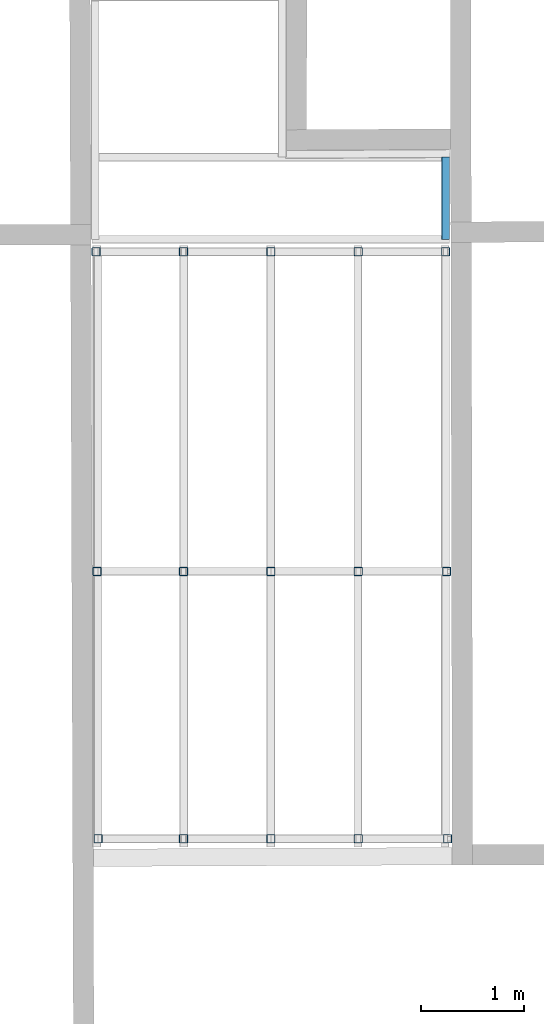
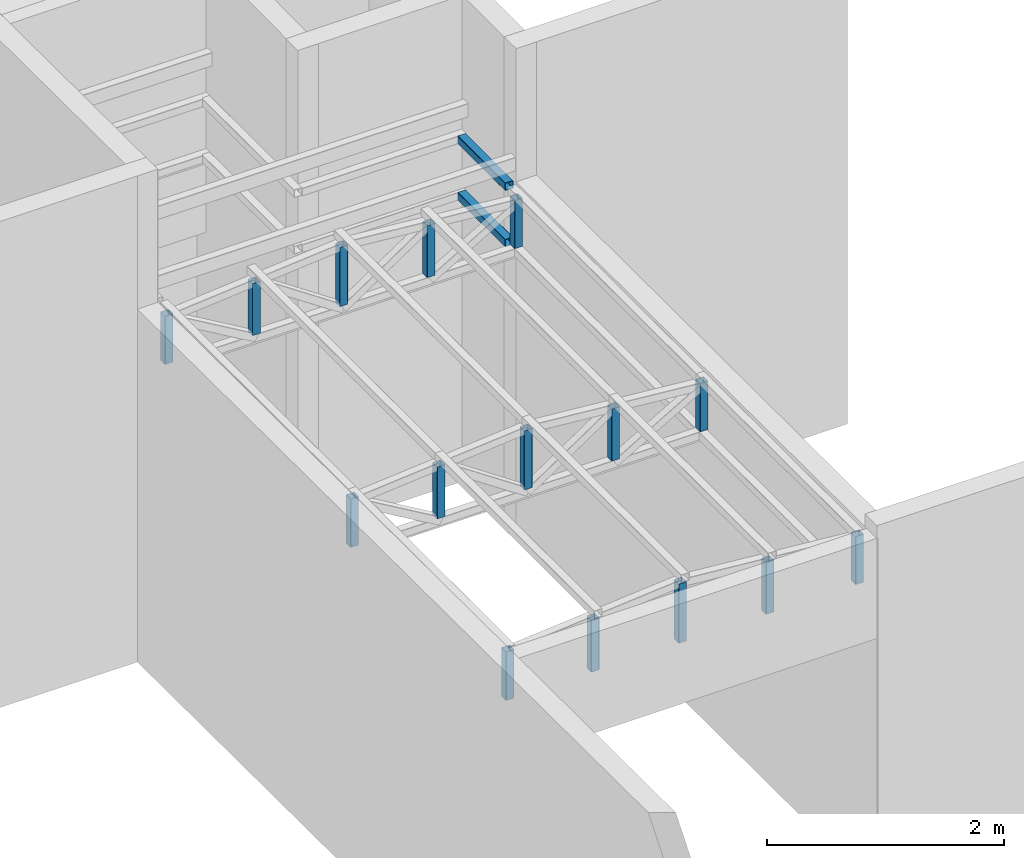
# One storey, part 6 of 9: 17 beams, 17 elements without a shape of their own.
"""IFC2X3 building model written with IfcOpenShell, lengths in millimetres."""

import ifcopenshell
import ifcopenshell.guid

model = None  # the IFC model being written
_history = None  # IfcOwnerHistory: only IFC2X3 demands one
_inside = {}  # id of a spatial element -> (the spatial element, [elements in it])
_under = {}  # id of a project, library or spatial element -> (it, [spatial elements below it])
_declared = {}  # id of a project -> (the project, [libraries it declares])
_typed = {}  # id of a type object -> (the type object, [elements of that type])
_made_of = {}  # id of a material, layer set ... -> (it, [elements and type objects made of it])


def new_model(schema):
    """Start an empty IFC model of exactly this schema.

    Asked for "IFC4X3", IfcOpenShell would pick the latest addendum, in which some entities
    have other attributes; the version numbers below select the first issue.
    IFC2X3 requires an IfcOwnerHistory on every rooted entity: one is made here for all.
    """
    global model, _history
    if schema == "IFC4X3":
        model = ifcopenshell.file(schema_version=(4, 3, 0, 0))
    else:
        model = ifcopenshell.file(schema=schema)
    _inside.clear()
    _under.clear()
    _declared.clear()
    _typed.clear()
    _made_of.clear()
    _history = None
    if model.schema == "IFC2X3":
        org = make("IfcOrganization", Name="unknown")
        user = make(
            "IfcPersonAndOrganization",
            ThePerson=make("IfcPerson", FamilyName="unknown"),
            TheOrganization=org,
        )
        app = make(
            "IfcApplication",
            ApplicationDeveloper=org,
            Version="unknown",
            ApplicationFullName="unknown",
            ApplicationIdentifier="unknown",
        )
        _history = make(
            "IfcOwnerHistory",
            OwningUser=user,
            OwningApplication=app,
            ChangeAction="ADDED",
            CreationDate=0,
        )
    return model


def make(cls, **values):
    """One entity of the class cls with the attributes given. An attribute that is None is left unset."""
    return model.create_entity(
        cls, **{name: value for name, value in values.items() if value is not None}
    )


def rooted(cls, **values):
    """An entity with a GlobalId (a new one), such as an element, a storey or a relation."""
    return make(cls, GlobalId=ifcopenshell.guid.new(), OwnerHistory=_history, **values)


def si_unit(unit_type, name, prefix=None):
    """IfcSIUnit, for example si_unit("LENGTHUNIT", "METRE", prefix="MILLI")."""
    return make("IfcSIUnit", UnitType=unit_type, Prefix=prefix, Name=name)


def assignment(units):
    """IfcUnitAssignment: the units of a project."""
    return None if units is None else make("IfcUnitAssignment", Units=units)


def point(xyz):
    """IfcCartesianPoint."""
    return None if xyz is None else make("IfcCartesianPoint", Coordinates=xyz)


def direction(xyz):
    """IfcDirection."""
    return None if xyz is None else make("IfcDirection", DirectionRatios=xyz)


def frame(location, z_axis=None, x_axis=None):
    """IfcAxis2Placement3D, a coordinate frame: its origin and axes. An axis left out is left unset."""
    return make(
        "IfcAxis2Placement3D",
        Location=point(location),
        Axis=direction(z_axis),
        RefDirection=direction(x_axis),
    )


def frame_2d(location, x_axis=None):
    """IfcAxis2Placement2D, a coordinate frame in the plane: its origin and x axis."""
    return make(
        "IfcAxis2Placement2D", Location=point(location), RefDirection=direction(x_axis)
    )


def origin_with_axes():
    """The frame at (0, 0, 0) with the z axis (0, 0, 1) and the x axis (1, 0, 0) written out."""
    return frame((0.0, 0.0, 0.0), z_axis=(0.0, 0.0, 1.0), x_axis=(1.0, 0.0, 0.0))


def origin_2d_with_axis():
    """The frame at (0, 0) in the plane with the x axis (1, 0) written out."""
    return frame_2d((0.0, 0.0), x_axis=(1.0, 0.0))


def place(relative_to, where):
    """IfcLocalPlacement: puts the frame where relative to a parent placement (None: the world)."""
    return make(
        "IfcLocalPlacement", PlacementRelTo=relative_to, RelativePlacement=where
    )


def context(
    kind, dimensions, precision=None, world=None, true_north=None, identifier=None
):
    """IfcGeometricRepresentationContext, for example the 3D "Model" context."""
    return make(
        "IfcGeometricRepresentationContext",
        ContextIdentifier=identifier,
        ContextType=kind,
        CoordinateSpaceDimension=dimensions,
        Precision=precision,
        WorldCoordinateSystem=world,
        TrueNorth=true_north,
    )


def subcontext(parent, identifier, kind, view, scale=None):
    """IfcGeometricRepresentationSubContext, for example "Body" below "Model"."""
    return make(
        "IfcGeometricRepresentationSubContext",
        ContextIdentifier=identifier,
        ContextType=kind,
        ParentContext=parent,
        TargetScale=scale,
        TargetView=view,
    )


def project(units=None, contexts=None):
    """IfcProject with its units and contexts."""
    return rooted(
        "IfcProject",
        Name="project",
        RepresentationContexts=contexts,
        UnitsInContext=assignment(units),
    )


def spatial(cls, under=None, at=None, **own):
    """A site, building, storey or space (cls), placed at a placement, below another one or the project."""
    s = rooted(cls, ObjectPlacement=at, **own)
    if under is not None:
        _under.setdefault(under.id(), (under, []))[1].append(s)
    return s


def profile(cls, at=None, kind="AREA", **sizes):
    """A parametric profile (cls). Its sizes go by their IFC names, for example OverallWidth=200.0."""
    return make(cls, ProfileType=kind, Position=at, **sizes)


def hollow_rectangle(**sizes):
    """IfcRectangleHollowProfileDef."""
    return profile("IfcRectangleHollowProfileDef", **sizes)


def extrude(swept, where, along, depth):
    """IfcExtrudedAreaSolid: the profile swept, set in the frame where, extruded along a direction by depth."""
    return make(
        "IfcExtrudedAreaSolid",
        SweptArea=swept,
        Position=where,
        ExtrudedDirection=direction(along),
        Depth=depth,
    )


def shape(context_of_items, identifier, shape_type, items):
    """IfcShapeRepresentation: the items that make up one representation, for example the "Body"."""
    return make(
        "IfcShapeRepresentation",
        ContextOfItems=context_of_items,
        RepresentationIdentifier=identifier,
        RepresentationType=shape_type,
        Items=items,
    )


def material(Name=None, Category=None):
    """IfcMaterial."""
    return make("IfcMaterial", Name=Name, Category=Category)


def made_of(thing, what):
    """Note that an element or type object is made of a material, layer set ...; save() writes the relation."""
    if what is not None:
        _made_of.setdefault(what.id(), (what, []))[1].append(thing)
    return thing


def type_object(cls, material=None, **own):
    """A type object (cls), such as IfcWallType, which elements share."""
    return made_of(rooted(cls, **own), material)


def element(
    cls,
    number,
    at=None,
    inside=None,
    cuts=None,
    type_object=None,
    material=None,
    context=None,
    identifier="Body",
    shape_type=None,
    held_by="IfcProductDefinitionShape",
    body=None,
    shapes=None,
    **own,
):
    """One element of the class cls, such as IfcWall. Its Tag is "e" and its number.

    at: its placement. inside: the storey or other place that contains it. cuts: it is an
    opening in that element (IfcRelVoidsElement). A single representation is given by context,
    identifier, shape_type and body (its items); several are given by shapes. held_by: the class
    of the entity that holds the representations. save() writes the other relations.
    """
    e = rooted(cls, Tag="e%d" % number, ObjectPlacement=at, **own)
    if body is not None:
        shapes = [shape(context, identifier, shape_type, body)]
    if shapes is not None:
        e.Representation = make(held_by, Representations=shapes)
    if inside is not None:
        _inside.setdefault(inside.id(), (inside, []))[1].append(e)
    if cuts is not None:
        rooted(
            "IfcRelVoidsElement", RelatingBuildingElement=cuts, RelatedOpeningElement=e
        )
    if type_object is not None:
        _typed.setdefault(type_object.id(), (type_object, []))[1].append(e)
    return made_of(e, material)


def aggregate(whole, parts):
    """IfcRelAggregates: a whole, such as a stair, and the parts it consists of."""
    return rooted("IfcRelAggregates", RelatingObject=whole, RelatedObjects=parts)


def save(model, path):
    """Write the relations noted so far, then the file.

    IfcRelAggregates (storeys below a building ...), IfcRelContainedInSpatialStructure (elements
    in a storey), IfcRelDefinesByType, IfcRelAssociatesMaterial and IfcRelDeclares: one each for
    every whole, place, type object, material and project.
    """
    for whole, parts in _under.values():
        aggregate(whole, parts)
    for where, things in _inside.values():
        rooted(
            "IfcRelContainedInSpatialStructure",
            RelatedElements=things,
            RelatingStructure=where,
        )
    for kind, things in _typed.values():
        rooted("IfcRelDefinesByType", RelatedObjects=things, RelatingType=kind)
    for what, things in _made_of.values():
        rooted("IfcRelAssociatesMaterial", RelatedObjects=things, RelatingMaterial=what)
    for by, libraries in _declared.values():
        rooted("IfcRelDeclares", RelatingContext=by, RelatedDefinitions=libraries)
    model.write(path)


model = new_model("IFC2X3")

# Units and contexts
model_context = context("Model", 3, precision=1e-05, world=origin_with_axes())
body_context = subcontext(model_context, "Body", "Model", "MODEL_VIEW")
ifc_project = project(units=[si_unit("LENGTHUNIT", "METRE", prefix="MILLI"), si_unit("AREAUNIT", "SQUARE_METRE"), si_unit("VOLUMEUNIT", "CUBIC_METRE"), si_unit("MASSUNIT", "GRAM", prefix="KILO"), si_unit("TIMEUNIT", "SECOND"), si_unit("PLANEANGLEUNIT", "RADIAN"), si_unit("SOLIDANGLEUNIT", "STERADIAN"), si_unit("THERMODYNAMICTEMPERATUREUNIT", "DEGREE_CELSIUS"), si_unit("LUMINOUSINTENSITYUNIT", "LUMEN")], contexts=[model_context])

# Site, building, storey
site_placement = place(None, origin_with_axes())
site = spatial("IfcSite", under=ifc_project, at=site_placement, Name="01_26-05_PRO_BOULAZAC_CMA-FORMATION", CompositionType="ELEMENT")
building_placement = place(site_placement, origin_with_axes())
building = spatial("IfcBuilding", under=site, at=building_placement, Name="Undefined", CompositionType="ELEMENT")
storey_placement = place(building_placement, origin_with_axes())
storey = spatial("IfcBuildingStorey", under=building, at=storey_placement, Name="Undefined", CompositionType="ELEMENT", Elevation=0.0)

# Assembly, beam
assembly_1_placement = place(storey_placement, origin_with_axes())
assembly_1 = element("IfcElementAssembly", 1, at=assembly_1_placement, inside=storey, Name="LISSE", AssemblyPlace="NOTDEFINED", PredefinedType="NOTDEFINED")
ifc_material = material(Name="STEEL/S235JR")
beam_type = type_object("IfcBeamType", Name="TUBE-C-80*80*3", PredefinedType="NOTDEFINED")
beam_1_placement = place(assembly_1_placement, frame((20736.8497008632, 13890.0000000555, 3589.99999999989), z_axis=(1.0, 0.0, 0.0), x_axis=(0.0, 1.0, 0.0)))
beam_1 = element("IfcBeam", 2, at=beam_1_placement, type_object=beam_type, material=ifc_material, Name="LISSE", context=body_context, shape_type="SweptSolid", body=[
    extrude(hollow_rectangle(XDim=80.0, YDim=80.0, WallThickness=3.0, InnerFilletRadius=3.0, OuterFilletRadius=6.0, at=origin_2d_with_axis()), frame((800.000000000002, 0.0, 0.0), z_axis=(-1.0, 0.0, 0.0), x_axis=(0.0, -1.0, 0.0)), (0.0, 0.0, 1.0), 800.0),
])
aggregate(assembly_1, [beam_1])

assembly_2_placement = place(storey_placement, origin_with_axes())
assembly_2 = element("IfcElementAssembly", 3, at=assembly_2_placement, inside=storey, Name="LISSE", AssemblyPlace="NOTDEFINED", PredefinedType="NOTDEFINED")
beam_2_placement = place(assembly_2_placement, frame((20736.8497008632, 13890.0000000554, 3009.99999999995), z_axis=(1.0, 0.0, 0.0), x_axis=(0.0, 1.0, 0.0)))
beam_2 = element("IfcBeam", 4, at=beam_2_placement, type_object=beam_type, material=ifc_material, Name="LISSE", context=body_context, shape_type="SweptSolid", body=[
    extrude(hollow_rectangle(XDim=80.0, YDim=80.0, WallThickness=3.0, InnerFilletRadius=3.0, OuterFilletRadius=6.0, at=origin_2d_with_axis()), frame((800.000000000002, 0.0, 0.0), z_axis=(-1.0, 0.0, 0.0), x_axis=(0.0, -1.0, 0.0)), (0.0, 0.0, 1.0), 800.0),
])
aggregate(assembly_2, [beam_2])

assembly_3_placement = place(storey_placement, origin_with_axes())
assembly_3 = element("IfcElementAssembly", 5, at=assembly_3_placement, inside=storey, Name="TREILLIS", AssemblyPlace="NOTDEFINED", PredefinedType="NOTDEFINED")
beam_3_placement = place(assembly_3_placement, frame((17346.8497008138, 10660.0000000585, 3050.0), z_axis=(0.0, 1.0, 0.0), x_axis=(0.0, 0.0, 1.0)))
beam_3 = element("IfcBeam", 6, at=beam_3_placement, type_object=beam_type, material=ifc_material, Name="TREILLIS", context=body_context, shape_type="SweptSolid", body=[
    extrude(hollow_rectangle(XDim=80.0, YDim=80.0, WallThickness=3.0, InnerFilletRadius=3.0, OuterFilletRadius=6.0, at=origin_2d_with_axis()), frame((496.809346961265, 0.0, 0.0), z_axis=(-1.0, 0.0, 0.0), x_axis=(0.0, -1.0, 0.0)), (0.0, 0.0, 1.0), 496.81),
])
aggregate(assembly_3, [beam_3])

assembly_4_placement = place(storey_placement, origin_with_axes())
assembly_4 = element("IfcElementAssembly", 7, at=assembly_4_placement, inside=storey, Name="TREILLIS", AssemblyPlace="NOTDEFINED", PredefinedType="NOTDEFINED")
beam_4_placement = place(assembly_4_placement, frame((17336.8497008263, 13770.0000000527, 3050.0), z_axis=(0.0, 1.0, 0.0), x_axis=(0.0, 0.0, 1.0)))
beam_4 = element("IfcBeam", 8, at=beam_4_placement, type_object=beam_type, material=ifc_material, Name="TREILLIS", context=body_context, shape_type="SweptSolid", body=[
    extrude(hollow_rectangle(XDim=80.0, YDim=80.0, WallThickness=3.0, InnerFilletRadius=3.0, OuterFilletRadius=6.0, at=origin_2d_with_axis()), frame((495.934460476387, 0.0, 0.0), z_axis=(-1.0, 0.0, 0.0), x_axis=(0.0, -1.0, 0.0)), (0.0, 0.0, 1.0), 495.93),
])
aggregate(assembly_4, [beam_4])

assembly_5_placement = place(storey_placement, origin_with_axes())
assembly_5 = element("IfcElementAssembly", 9, at=assembly_5_placement, inside=storey, Name="TREILLIS", AssemblyPlace="NOTDEFINED", PredefinedType="NOTDEFINED")
beam_5_placement = place(assembly_5_placement, frame((17356.8497008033, 8060.00000006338, 3050.0), z_axis=(0.0, 1.0, 0.0), x_axis=(0.0, 0.0, 1.0)))
beam_5 = element("IfcBeam", 10, at=beam_5_placement, type_object=beam_type, material=ifc_material, Name="TREILLIS", context=body_context, shape_type="SweptSolid", body=[
    extrude(hollow_rectangle(XDim=80.0, YDim=80.0, WallThickness=3.0, InnerFilletRadius=3.0, OuterFilletRadius=6.0, at=origin_2d_with_axis()), frame((497.684233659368, 0.0, 0.0), z_axis=(-1.0, 0.0, 0.0), x_axis=(0.0, -1.0, 0.0)), (0.0, 0.0, 1.0), 497.68),
])
aggregate(assembly_5, [beam_5])

assembly_6_placement = place(storey_placement, origin_with_axes())
assembly_6 = element("IfcElementAssembly", 11, at=assembly_6_placement, inside=storey, Name="TREILLIS", AssemblyPlace="NOTDEFINED", PredefinedType="NOTDEFINED")
beam_6_placement = place(assembly_6_placement, frame((18186.8497008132, 10660.0000000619, 3050.0), z_axis=(0.0, 1.0, 0.0), x_axis=(0.0, 0.0, 1.0)))
beam_6 = element("IfcBeam", 12, at=beam_6_placement, type_object=beam_type, material=ifc_material, Name="TREILLIS", context=body_context, shape_type="SweptSolid", body=[
    extrude(hollow_rectangle(XDim=80.0, YDim=80.0, WallThickness=3.0, InnerFilletRadius=3.0, OuterFilletRadius=6.0, at=origin_2d_with_axis()), frame((533.646610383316, 0.0, 0.0), z_axis=(-1.0, 0.0, 0.0), x_axis=(0.0, -1.0, 0.0)), (0.0, 0.0, 1.0), 533.65),
])
aggregate(assembly_6, [beam_6])

assembly_7_placement = place(storey_placement, origin_with_axes())
assembly_7 = element("IfcElementAssembly", 13, at=assembly_7_placement, inside=storey, Name="TREILLIS", AssemblyPlace="NOTDEFINED", PredefinedType="NOTDEFINED")
beam_7_placement = place(assembly_7_placement, frame((20746.8497008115, 10660.0000000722, 3050.0), z_axis=(0.0, 1.0, 0.0), x_axis=(0.0, 0.0, 1.0)))
beam_7 = element("IfcBeam", 14, at=beam_7_placement, type_object=beam_type, material=ifc_material, Name="TREILLIS", context=body_context, shape_type="SweptSolid", body=[
    extrude(hollow_rectangle(XDim=80.0, YDim=80.0, WallThickness=3.0, InnerFilletRadius=3.0, OuterFilletRadius=6.0, at=origin_2d_with_axis()), frame((495.059629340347, 0.0, 0.0), z_axis=(-1.0, 0.0, 0.0), x_axis=(0.0, -1.0, 0.0)), (0.0, 0.0, 1.0), 495.06),
])
aggregate(assembly_7, [beam_7])

assembly_8_placement = place(storey_placement, origin_with_axes())
assembly_8 = element("IfcElementAssembly", 15, at=assembly_8_placement, inside=storey, Name="TREILLIS", AssemblyPlace="NOTDEFINED", PredefinedType="NOTDEFINED")
beam_8_placement = place(assembly_8_placement, frame((19886.8497008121, 10660.0000000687, 3050.0), z_axis=(0.0, 1.0, 0.0), x_axis=(0.0, 0.0, 1.0)))
beam_8 = element("IfcBeam", 16, at=beam_8_placement, type_object=beam_type, material=ifc_material, Name="TREILLIS", context=body_context, shape_type="SweptSolid", body=[
    extrude(hollow_rectangle(XDim=80.0, YDim=80.0, WallThickness=3.0, InnerFilletRadius=3.0, OuterFilletRadius=6.0, at=origin_2d_with_axis()), frame((533.646610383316, 0.0, 0.0), z_axis=(-1.0, 0.0, 0.0), x_axis=(0.0, -1.0, 0.0)), (0.0, 0.0, 1.0), 533.65),
])
aggregate(assembly_8, [beam_8])

assembly_9_placement = place(storey_placement, origin_with_axes())
assembly_9 = element("IfcElementAssembly", 17, at=assembly_9_placement, inside=storey, Name="TREILLIS", AssemblyPlace="NOTDEFINED", PredefinedType="NOTDEFINED")
beam_9_placement = place(assembly_9_placement, frame((19036.8497008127, 10660.0000000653, 3050.0), z_axis=(0.0, 1.0, 0.0), x_axis=(0.0, 0.0, 1.0)))
beam_9 = element("IfcBeam", 18, at=beam_9_placement, type_object=beam_type, material=ifc_material, Name="TREILLIS", context=body_context, shape_type="SweptSolid", body=[
    extrude(hollow_rectangle(XDim=80.0, YDim=80.0, WallThickness=3.0, InnerFilletRadius=3.0, OuterFilletRadius=6.0, at=origin_2d_with_axis()), frame((608.011979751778, 0.0, 0.0), z_axis=(-1.0, 0.0, 0.0), x_axis=(0.0, -1.0, 0.0)), (0.0, 0.0, 1.0), 608.01),
])
aggregate(assembly_9, [beam_9])

assembly_10_placement = place(storey_placement, origin_with_axes())
assembly_10 = element("IfcElementAssembly", 19, at=assembly_10_placement, inside=storey, Name="TREILLIS", AssemblyPlace="NOTDEFINED", PredefinedType="NOTDEFINED")
beam_10_placement = place(assembly_10_placement, frame((18186.8497008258, 13770.0000000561, 3050.0), z_axis=(0.0, 1.0, 0.0), x_axis=(0.0, 0.0, 1.0)))
beam_10 = element("IfcBeam", 20, at=beam_10_placement, type_object=beam_type, material=ifc_material, Name="TREILLIS", context=body_context, shape_type="SweptSolid", body=[
    extrude(hollow_rectangle(XDim=80.0, YDim=80.0, WallThickness=3.0, InnerFilletRadius=3.0, OuterFilletRadius=6.0, at=origin_2d_with_axis()), frame((533.646610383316, 0.0, 0.0), z_axis=(-1.0, 0.0, 0.0), x_axis=(0.0, -1.0, 0.0)), (0.0, 0.0, 1.0), 533.65),
])
aggregate(assembly_10, [beam_10])

assembly_11_placement = place(storey_placement, origin_with_axes())
assembly_11 = element("IfcElementAssembly", 21, at=assembly_11_placement, inside=storey, Name="TREILLIS", AssemblyPlace="NOTDEFINED", PredefinedType="NOTDEFINED")
beam_11_placement = place(assembly_11_placement, frame((20736.849700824, 13770.0000000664, 3050.0), z_axis=(0.0, 1.0, 0.0), x_axis=(0.0, 0.0, 1.0)))
beam_11 = element("IfcBeam", 22, at=beam_11_placement, type_object=beam_type, material=ifc_material, Name="TREILLIS", context=body_context, shape_type="SweptSolid", body=[
    extrude(hollow_rectangle(XDim=80.0, YDim=80.0, WallThickness=3.0, InnerFilletRadius=3.0, OuterFilletRadius=6.0, at=origin_2d_with_axis()), frame((495.934515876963, 0.0, 0.0), z_axis=(-1.0, 0.0, 0.0), x_axis=(0.0, -1.0, 0.0)), (0.0, 0.0, 1.0), 495.93),
])
aggregate(assembly_11, [beam_11])

assembly_12_placement = place(storey_placement, origin_with_axes())
assembly_12 = element("IfcElementAssembly", 23, at=assembly_12_placement, inside=storey, Name="TREILLIS", AssemblyPlace="NOTDEFINED", PredefinedType="NOTDEFINED")
beam_12_placement = place(assembly_12_placement, frame((19886.8497008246, 13770.000000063, 3050.0), z_axis=(0.0, 1.0, 0.0), x_axis=(0.0, 0.0, 1.0)))
beam_12 = element("IfcBeam", 24, at=beam_12_placement, type_object=beam_type, material=ifc_material, Name="TREILLIS", context=body_context, shape_type="SweptSolid", body=[
    extrude(hollow_rectangle(XDim=80.0, YDim=80.0, WallThickness=3.0, InnerFilletRadius=3.0, OuterFilletRadius=6.0, at=origin_2d_with_axis()), frame((533.646610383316, 0.0, 0.0), z_axis=(-1.0, 0.0, 0.0), x_axis=(0.0, -1.0, 0.0)), (0.0, 0.0, 1.0), 533.65),
])
aggregate(assembly_12, [beam_12])

assembly_13_placement = place(storey_placement, origin_with_axes())
assembly_13 = element("IfcElementAssembly", 25, at=assembly_13_placement, inside=storey, Name="TREILLIS", AssemblyPlace="NOTDEFINED", PredefinedType="NOTDEFINED")
beam_13_placement = place(assembly_13_placement, frame((19036.8497008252, 13770.0000000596, 3050.0), z_axis=(0.0, 1.0, 0.0), x_axis=(0.0, 0.0, 1.0)))
beam_13 = element("IfcBeam", 26, at=beam_13_placement, type_object=beam_type, material=ifc_material, Name="TREILLIS", context=body_context, shape_type="SweptSolid", body=[
    extrude(hollow_rectangle(XDim=80.0, YDim=80.0, WallThickness=3.0, InnerFilletRadius=3.0, OuterFilletRadius=6.0, at=origin_2d_with_axis()), frame((608.011979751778, 0.0, 0.0), z_axis=(-1.0, 0.0, 0.0), x_axis=(0.0, -1.0, 0.0)), (0.0, 0.0, 1.0), 608.01),
])
aggregate(assembly_13, [beam_13])

assembly_14_placement = place(storey_placement, origin_with_axes())
assembly_14 = element("IfcElementAssembly", 27, at=assembly_14_placement, inside=storey, Name="TREILLIS", AssemblyPlace="NOTDEFINED", PredefinedType="NOTDEFINED")
beam_14_placement = place(assembly_14_placement, frame((18186.8497008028, 8060.00000006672, 3050.0), z_axis=(0.0, 1.0, 0.0), x_axis=(0.0, 0.0, 1.0)))
beam_14 = element("IfcBeam", 28, at=beam_14_placement, type_object=beam_type, material=ifc_material, Name="TREILLIS", context=body_context, shape_type="SweptSolid", body=[
    extrude(hollow_rectangle(XDim=80.0, YDim=80.0, WallThickness=3.0, InnerFilletRadius=3.0, OuterFilletRadius=6.0, at=origin_2d_with_axis()), frame((533.646610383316, 0.0, 0.0), z_axis=(-1.0, 0.0, 0.0), x_axis=(0.0, -1.0, 0.0)), (0.0, 0.0, 1.0), 533.65),
])
aggregate(assembly_14, [beam_14])

assembly_15_placement = place(storey_placement, origin_with_axes())
assembly_15 = element("IfcElementAssembly", 29, at=assembly_15_placement, inside=storey, Name="TREILLIS", AssemblyPlace="NOTDEFINED", PredefinedType="NOTDEFINED")
beam_15_placement = place(assembly_15_placement, frame((20756.849700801, 8060.00000007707, 3050.0), z_axis=(0.0, 1.0, 0.0), x_axis=(0.0, 0.0, 1.0)))
beam_15 = element("IfcBeam", 30, at=beam_15_placement, type_object=beam_type, material=ifc_material, Name="TREILLIS", context=body_context, shape_type="SweptSolid", body=[
    extrude(hollow_rectangle(XDim=80.0, YDim=80.0, WallThickness=3.0, InnerFilletRadius=3.0, OuterFilletRadius=6.0, at=origin_2d_with_axis()), frame((494.184742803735, 0.0, 0.0), z_axis=(-1.0, 0.0, 0.0), x_axis=(0.0, -1.0, 0.0)), (0.0, 0.0, 1.0), 494.18),
])
aggregate(assembly_15, [beam_15])

assembly_16_placement = place(storey_placement, origin_with_axes())
assembly_16 = element("IfcElementAssembly", 31, at=assembly_16_placement, inside=storey, Name="TREILLIS", AssemblyPlace="NOTDEFINED", PredefinedType="NOTDEFINED")
beam_16_placement = place(assembly_16_placement, frame((19886.8497008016, 8060.00000007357, 3050.0), z_axis=(0.0, 1.0, 0.0), x_axis=(0.0, 0.0, 1.0)))
beam_16 = element("IfcBeam", 32, at=beam_16_placement, type_object=beam_type, material=ifc_material, Name="TREILLIS", context=body_context, shape_type="SweptSolid", body=[
    extrude(hollow_rectangle(XDim=80.0, YDim=80.0, WallThickness=3.0, InnerFilletRadius=3.0, OuterFilletRadius=6.0, at=origin_2d_with_axis()), frame((533.646610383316, 0.0, 0.0), z_axis=(-1.0, 0.0, 0.0), x_axis=(0.0, -1.0, 0.0)), (0.0, 0.0, 1.0), 533.65),
])
aggregate(assembly_16, [beam_16])

assembly_17_placement = place(storey_placement, origin_with_axes())
assembly_17 = element("IfcElementAssembly", 33, at=assembly_17_placement, inside=storey, Name="TREILLIS", AssemblyPlace="NOTDEFINED", PredefinedType="NOTDEFINED")
beam_17_placement = place(assembly_17_placement, frame((19036.8497008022, 8060.00000007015, 3050.0), z_axis=(0.0, 1.0, 0.0), x_axis=(0.0, 0.0, 1.0)))
beam_17 = element("IfcBeam", 34, at=beam_17_placement, type_object=beam_type, material=ifc_material, Name="TREILLIS", context=body_context, shape_type="SweptSolid", body=[
    extrude(hollow_rectangle(XDim=80.0, YDim=80.0, WallThickness=3.0, InnerFilletRadius=3.0, OuterFilletRadius=6.0, at=origin_2d_with_axis()), frame((608.011979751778, 0.0, 0.0), z_axis=(-1.0, 0.0, 0.0), x_axis=(0.0, -1.0, 0.0)), (0.0, 0.0, 1.0), 608.01),
])
aggregate(assembly_17, [beam_17])

save(model, "model.ifc")
